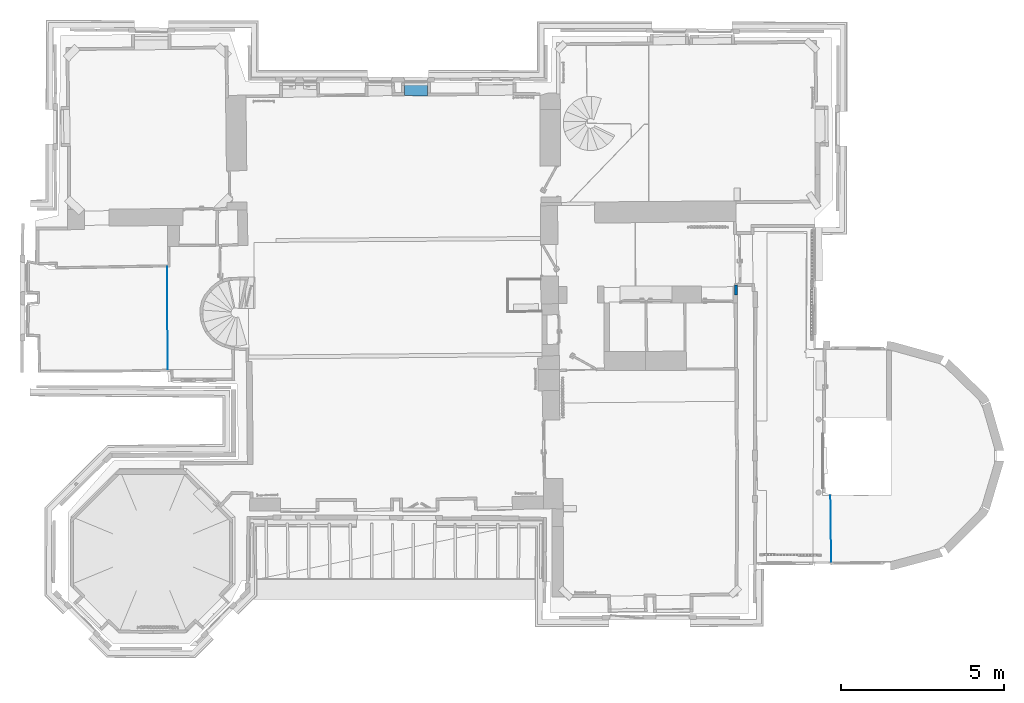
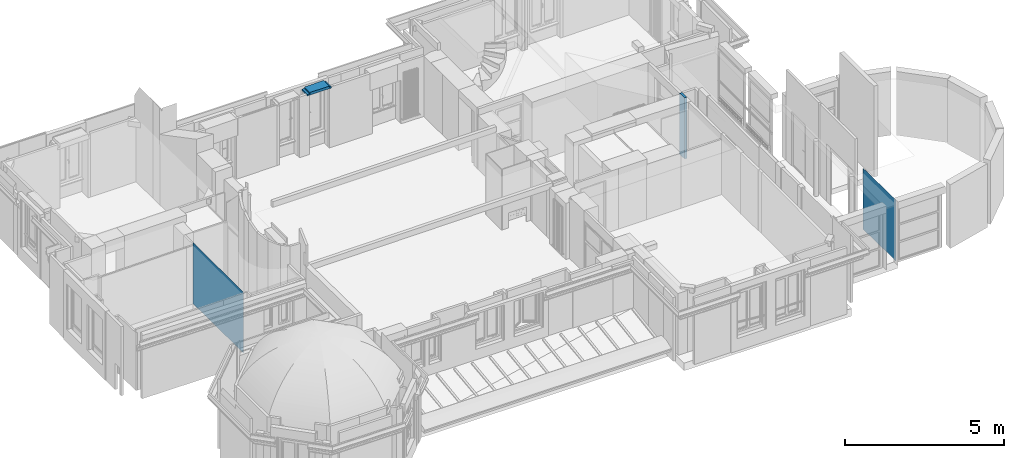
# One storey, part 25 of 72: 4 walls.
"""IFC2X3 building model written with IfcOpenShell, lengths in centimetres."""

import ifcopenshell
import ifcopenshell.guid

model = None  # the IFC model being written
_history = None  # IfcOwnerHistory: only IFC2X3 demands one
_inside = {}  # id of a spatial element -> (the spatial element, [elements in it])
_under = {}  # id of a project, library or spatial element -> (it, [spatial elements below it])
_declared = {}  # id of a project -> (the project, [libraries it declares])
_typed = {}  # id of a type object -> (the type object, [elements of that type])
_made_of = {}  # id of a material, layer set ... -> (it, [elements and type objects made of it])


def new_model(schema):
    """Start an empty IFC model of exactly this schema.

    Asked for "IFC4X3", IfcOpenShell would pick the latest addendum, in which some entities
    have other attributes; the version numbers below select the first issue.
    IFC2X3 requires an IfcOwnerHistory on every rooted entity: one is made here for all.
    """
    global model, _history
    if schema == "IFC4X3":
        model = ifcopenshell.file(schema_version=(4, 3, 0, 0))
    else:
        model = ifcopenshell.file(schema=schema)
    _inside.clear()
    _under.clear()
    _declared.clear()
    _typed.clear()
    _made_of.clear()
    _history = None
    if model.schema == "IFC2X3":
        org = make("IfcOrganization", Name="unknown")
        user = make(
            "IfcPersonAndOrganization",
            ThePerson=make("IfcPerson", FamilyName="unknown"),
            TheOrganization=org,
        )
        app = make(
            "IfcApplication",
            ApplicationDeveloper=org,
            Version="unknown",
            ApplicationFullName="unknown",
            ApplicationIdentifier="unknown",
        )
        _history = make(
            "IfcOwnerHistory",
            OwningUser=user,
            OwningApplication=app,
            ChangeAction="ADDED",
            CreationDate=0,
        )
    return model


def make(cls, **values):
    """One entity of the class cls with the attributes given. An attribute that is None is left unset."""
    return model.create_entity(
        cls, **{name: value for name, value in values.items() if value is not None}
    )


def entity(cls, *values):
    """Any entity or typed value of the class cls, its attributes in the order of the schema. None: left unset."""
    e = model.create_entity(cls)
    for i, value in enumerate(values):
        if value is not None:
            e[i] = value
    return e


def rooted(cls, **values):
    """An entity with a GlobalId (a new one), such as an element, a storey or a relation."""
    return make(cls, GlobalId=ifcopenshell.guid.new(), OwnerHistory=_history, **values)


def si_unit(unit_type, name, prefix=None):
    """IfcSIUnit, for example si_unit("LENGTHUNIT", "METRE", prefix="MILLI")."""
    return make("IfcSIUnit", UnitType=unit_type, Prefix=prefix, Name=name)


def converted_unit(unit_type, name, factor, base, dimensions=None, offset=None):
    """IfcConversionBasedUnit, such as the inch: factor (a typed value) times the base unit."""
    return make(
        "IfcConversionBasedUnit"
        if offset is None
        else "IfcConversionBasedUnitWithOffset",
        ConversionOffset=offset,
        Dimensions=None
        if dimensions is None
        else entity("IfcDimensionalExponents", *dimensions),
        UnitType=unit_type,
        Name=name,
        ConversionFactor=make(
            "IfcMeasureWithUnit", ValueComponent=factor, UnitComponent=base
        ),
    )


def assignment(units):
    """IfcUnitAssignment: the units of a project."""
    return None if units is None else make("IfcUnitAssignment", Units=units)


def point(xyz):
    """IfcCartesianPoint."""
    return None if xyz is None else make("IfcCartesianPoint", Coordinates=xyz)


def direction(xyz):
    """IfcDirection."""
    return None if xyz is None else make("IfcDirection", DirectionRatios=xyz)


def frame(location, z_axis=None, x_axis=None):
    """IfcAxis2Placement3D, a coordinate frame: its origin and axes. An axis left out is left unset."""
    return make(
        "IfcAxis2Placement3D",
        Location=point(location),
        Axis=direction(z_axis),
        RefDirection=direction(x_axis),
    )


def origin():
    """The frame at (0, 0, 0) with its axes left unset."""
    return frame((0.0, 0.0, 0.0))


def origin_with_axes():
    """The frame at (0, 0, 0) with the z axis (0, 0, 1) and the x axis (1, 0, 0) written out."""
    return frame((0.0, 0.0, 0.0), z_axis=(0.0, 0.0, 1.0), x_axis=(1.0, 0.0, 0.0))


def place(relative_to, where):
    """IfcLocalPlacement: puts the frame where relative to a parent placement (None: the world)."""
    return make(
        "IfcLocalPlacement", PlacementRelTo=relative_to, RelativePlacement=where
    )


def context(
    kind, dimensions, precision=None, world=None, true_north=None, identifier=None
):
    """IfcGeometricRepresentationContext, for example the 3D "Model" context."""
    return make(
        "IfcGeometricRepresentationContext",
        ContextIdentifier=identifier,
        ContextType=kind,
        CoordinateSpaceDimension=dimensions,
        Precision=precision,
        WorldCoordinateSystem=world,
        TrueNorth=true_north,
    )


def subcontext(parent, identifier, kind, view, scale=None):
    """IfcGeometricRepresentationSubContext, for example "Body" below "Model"."""
    return make(
        "IfcGeometricRepresentationSubContext",
        ContextIdentifier=identifier,
        ContextType=kind,
        ParentContext=parent,
        TargetScale=scale,
        TargetView=view,
    )


def project(units=None, contexts=None):
    """IfcProject with its units and contexts."""
    return rooted(
        "IfcProject",
        Name="project",
        RepresentationContexts=contexts,
        UnitsInContext=assignment(units),
    )


def spatial(cls, under=None, at=None, **own):
    """A site, building, storey or space (cls), placed at a placement, below another one or the project."""
    s = rooted(cls, ObjectPlacement=at, **own)
    if under is not None:
        _under.setdefault(under.id(), (under, []))[1].append(s)
    return s


def polyline(points):
    """IfcPolyline through the points."""
    return make("IfcPolyline", Points=[point(p) for p in points])


def outline(outer, holes=None, kind="AREA"):
    """IfcArbitraryClosedProfileDef: a profile drawn as a closed curve; with holes, ...WithVoids."""
    if holes is None:
        return make("IfcArbitraryClosedProfileDef", ProfileType=kind, OuterCurve=outer)
    return make(
        "IfcArbitraryProfileDefWithVoids",
        ProfileType=kind,
        OuterCurve=outer,
        InnerCurves=holes,
    )


def extrude(swept, where, along, depth):
    """IfcExtrudedAreaSolid: the profile swept, set in the frame where, extruded along a direction by depth."""
    return make(
        "IfcExtrudedAreaSolid",
        SweptArea=swept,
        Position=where,
        ExtrudedDirection=direction(along),
        Depth=depth,
    )


def clip(a, b, op="DIFFERENCE"):
    """IfcBooleanClippingResult: the solid a cut by the half space b."""
    return make(
        "IfcBooleanClippingResult", Operator=op, FirstOperand=a, SecondOperand=b
    )


def bounded_halfspace(plane, agree, where, boundary):
    """IfcPolygonalBoundedHalfSpace: a half space limited to a polygon's prism."""
    return make(
        "IfcPolygonalBoundedHalfSpace",
        BaseSurface=make("IfcPlane", Position=plane),
        AgreementFlag=agree,
        Position=where,
        PolygonalBoundary=boundary,
    )


def faces_of(points, faces, orient=None, outer=None):
    """IfcFace entities. A face is a list of loops; a loop is a list of indices into points, from 0.

    orient and outer hold one flag for each loop. By default every Orientation is true, the
    first loop of a face is its IfcFaceOuterBound and the others are IfcFaceBound.
    """
    made = []
    for i, loops in enumerate(faces):
        bounds = []
        for j, loop in enumerate(loops):
            is_outer = j == 0 if outer is None else outer[i][j]
            bounds.append(
                make(
                    "IfcFaceOuterBound" if is_outer else "IfcFaceBound",
                    Bound=make("IfcPolyLoop", Polygon=[points[k] for k in loop]),
                    Orientation=True if orient is None else orient[i][j],
                )
            )
        made.append(make("IfcFace", Bounds=bounds))
    return made


def faceted_brep(points, faces, orient=None, outer=None, voids=None):
    """IfcFacetedBrep: a solid bounded by flat faces; with voids (closed shells), ...WithVoids."""
    shared = [point(p) for p in points]
    hull = make("IfcClosedShell", CfsFaces=faces_of(shared, faces, orient, outer))
    if voids is None:
        return make("IfcFacetedBrep", Outer=hull)
    return make(
        "IfcFacetedBrepWithVoids",
        Outer=hull,
        Voids=[
            make(cls, CfsFaces=faces_of(shared, fs, o, b)) for cls, fs, o, b in voids
        ],
    )


def shape(context_of_items, identifier, shape_type, items):
    """IfcShapeRepresentation: the items that make up one representation, for example the "Body"."""
    return make(
        "IfcShapeRepresentation",
        ContextOfItems=context_of_items,
        RepresentationIdentifier=identifier,
        RepresentationType=shape_type,
        Items=items,
    )


def material(Name=None, Category=None):
    """IfcMaterial."""
    return make("IfcMaterial", Name=Name, Category=Category)


def layer(
    of_material, thickness, ventilated=None, Name=None, Category=None, Priority=None
):
    """IfcMaterialLayer: one layer of a wall or slab, of a material (None: an air gap)."""
    return make(
        "IfcMaterialLayer",
        Material=of_material,
        LayerThickness=thickness,
        IsVentilated=ventilated,
        Name=Name,
        Category=Category,
        Priority=Priority,
    )


def layer_set(layers, Name=None):
    """IfcMaterialLayerSet."""
    return make("IfcMaterialLayerSet", MaterialLayers=layers, LayerSetName=Name)


def layer_usage(for_layer_set, set_direction, sense, offset, extent=None):
    """IfcMaterialLayerSetUsage: how a layer set lies in its element."""
    return make(
        "IfcMaterialLayerSetUsage",
        ForLayerSet=for_layer_set,
        LayerSetDirection=set_direction,
        DirectionSense=sense,
        OffsetFromReferenceLine=offset,
        ReferenceExtent=extent,
    )


def made_of(thing, what):
    """Note that an element or type object is made of a material, layer set ...; save() writes the relation."""
    if what is not None:
        _made_of.setdefault(what.id(), (what, []))[1].append(thing)
    return thing


def type_object(cls, material=None, **own):
    """A type object (cls), such as IfcWallType, which elements share."""
    return made_of(rooted(cls, **own), material)


def element(
    cls,
    number,
    at=None,
    inside=None,
    cuts=None,
    type_object=None,
    material=None,
    context=None,
    identifier="Body",
    shape_type=None,
    held_by="IfcProductDefinitionShape",
    body=None,
    shapes=None,
    **own,
):
    """One element of the class cls, such as IfcWall. Its Tag is "e" and its number.

    at: its placement. inside: the storey or other place that contains it. cuts: it is an
    opening in that element (IfcRelVoidsElement). A single representation is given by context,
    identifier, shape_type and body (its items); several are given by shapes. held_by: the class
    of the entity that holds the representations. save() writes the other relations.
    """
    e = rooted(cls, Tag="e%d" % number, ObjectPlacement=at, **own)
    if body is not None:
        shapes = [shape(context, identifier, shape_type, body)]
    if shapes is not None:
        e.Representation = make(held_by, Representations=shapes)
    if inside is not None:
        _inside.setdefault(inside.id(), (inside, []))[1].append(e)
    if cuts is not None:
        rooted(
            "IfcRelVoidsElement", RelatingBuildingElement=cuts, RelatedOpeningElement=e
        )
    if type_object is not None:
        _typed.setdefault(type_object.id(), (type_object, []))[1].append(e)
    return made_of(e, material)


def aggregate(whole, parts):
    """IfcRelAggregates: a whole, such as a stair, and the parts it consists of."""
    return rooted("IfcRelAggregates", RelatingObject=whole, RelatedObjects=parts)


def save(model, path):
    """Write the relations noted so far, then the file.

    IfcRelAggregates (storeys below a building ...), IfcRelContainedInSpatialStructure (elements
    in a storey), IfcRelDefinesByType, IfcRelAssociatesMaterial and IfcRelDeclares: one each for
    every whole, place, type object, material and project.
    """
    for whole, parts in _under.values():
        aggregate(whole, parts)
    for where, things in _inside.values():
        rooted(
            "IfcRelContainedInSpatialStructure",
            RelatedElements=things,
            RelatingStructure=where,
        )
    for kind, things in _typed.values():
        rooted("IfcRelDefinesByType", RelatedObjects=things, RelatingType=kind)
    for what, things in _made_of.values():
        rooted("IfcRelAssociatesMaterial", RelatedObjects=things, RelatingMaterial=what)
    for by, libraries in _declared.values():
        rooted("IfcRelDeclares", RelatingContext=by, RelatedDefinitions=libraries)
    model.write(path)


model = new_model("IFC2X3")

# Units and contexts
model_context = context("Model", 3, precision=0.0001, world=origin(), true_north=direction((0.225632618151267, 0.974212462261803, 0.0)))
body_context = subcontext(model_context, "Body", "Model", "MODEL_VIEW")
ifc_project = project(units=[si_unit("LENGTHUNIT", "METRE", prefix="CENTI"), si_unit("AREAUNIT", "SQUARE_METRE", prefix="CENTI"), si_unit("VOLUMEUNIT", "CUBIC_METRE", prefix="CENTI"), converted_unit("PLANEANGLEUNIT", "DEGREE", entity("IfcRatioMeasure", 0.0174532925), si_unit("PLANEANGLEUNIT", "RADIAN"), dimensions=[0, 0, 0, 0, 0, 0, 0])], contexts=[model_context])

# Site, building, storey
site_placement = place(None, origin_with_axes())
site = spatial("IfcSite", under=ifc_project, at=site_placement, Name="Default Site", CompositionType="ELEMENT")
building_placement = place(site_placement, origin_with_axes())
building = spatial("IfcBuilding", under=site, at=building_placement, Name="Default Building", CompositionType="ELEMENT")
storey_placement = place(building_placement, frame((0.0, 0.0, 853.910374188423), z_axis=(0.0, 0.0, 1.0), x_axis=(1.0, 0.0, 0.0)))
storey = spatial("IfcBuildingStorey", under=building, at=storey_placement, Name="Niveau 2", CompositionType="ELEMENT", Elevation=853.910374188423)

# Walls
ifc_material = material(Name="<aucun>")
ifc_layer_1 = layer(ifc_material, 9.0)
ifc_layer_set_1 = layer_set([ifc_layer_1], Name="default")
ifc_layer_usage_1 = layer_usage(ifc_layer_set_1, "AXIS2", "POSITIVE", -4.5)
wall_type_1 = type_object("IfcWallType", Name="default 90", PredefinedType="NOTDEFINED", material=ifc_layer_set_1)
wall_1_placement = place(storey_placement, frame((832.295948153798, -54.7670521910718, 1.4210854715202e-12), z_axis=(0.0, 0.0, 1.0), x_axis=(-0.0164847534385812, 0.99986411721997, 0.0)))
element("IfcWall", 1, at=wall_1_placement, inside=storey, type_object=wall_type_1, material=ifc_layer_usage_1, Name="Enveloppe 734086", context=body_context, shape_type="Brep", body=[
    faceted_brep([(1.36499394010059e-06, 4.50000503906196, 235.000014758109), (30.0980999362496, 4.50000506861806, 235.000014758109), (30.0980999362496, 4.50000506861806, -2.33888636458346e-05), (1.36499394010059e-06, 4.50000503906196, -2.33888636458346e-05), (5.31401200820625e-07, -4.49999337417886, -2.33888636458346e-05), (30.0980991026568, -4.49999334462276, -2.33888636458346e-05), (30.0980991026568, -4.49999334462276, 235.000014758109), (5.31401200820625e-07, -4.49999337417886, 235.000014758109), (1.37383186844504e-06, -4.49999337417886, -2.33888636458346e-05), (1.37383186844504e-06, -4.49999337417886, 235.000014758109), (30.0980999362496, 4.50004205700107, 235.000014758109), (30.0980999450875, -4.49995635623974, 235.000014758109), (30.0980999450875, -4.49995635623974, -2.33888636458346e-05), (30.0980999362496, 4.50004205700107, -2.33888636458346e-05), (30.0980991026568, -4.49995635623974, 235.000014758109), (30.0980991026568, -4.49995635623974, -2.33888636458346e-05)], [[[0, 1, 2, 3]], [[4, 5, 6, 7]], [[3, 8, 9, 0]], [[10, 11, 12, 13]], [[7, 14, 10, 0]], [[3, 13, 15, 4]]]),
])
ifc_layer_2 = layer(ifc_material, 0.0101999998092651)
ifc_layer_set_2 = layer_set([ifc_layer_2], Name="default")
ifc_layer_usage_2 = layer_usage(ifc_layer_set_2, "AXIS2", "POSITIVE", -0.0051)
wall_type_2 = type_object("IfcWallType", Name="default 0.101999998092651", PredefinedType="NOTDEFINED", material=ifc_layer_set_2)
wall_2_placement = place(storey_placement, frame((1124.24061530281, -872.651457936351, 0.0), z_axis=(0.0, 0.0, 1.0), x_axis=(-0.0125469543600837, 0.999921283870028, 0.0)))
element("IfcWall", 2, at=wall_2_placement, inside=storey, type_object=wall_type_2, material=ifc_layer_usage_2, Name="Enveloppe fantôme 777347", context=body_context, shape_type="Brep", body=[
    faceted_brep([(203.103103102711, 1.39379110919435e-05, -2.33888624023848e-05), (0.0867673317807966, 1.38186416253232e-05, -2.33888624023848e-05), (0.0867673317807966, 1.38186416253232e-05, 235.00001475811), (203.103103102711, 1.39379110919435e-05, 235.00001475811), (0.0867673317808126, -1.34640975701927e-05, -2.33888624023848e-05), (203.103103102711, -1.33448281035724e-05, -2.33888624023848e-05), (203.103103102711, -1.33448281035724e-05, 235.00001475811), (0.0867673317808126, -1.34640975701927e-05, 235.00001475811)], [[[0, 1, 2, 3]], [[4, 5, 6, 7]]]),
])
ifc_layer_usage_3 = layer_usage(ifc_layer_set_2, "AXIS2", "POSITIVE", -0.0051)
wall_3_placement = place(storey_placement, frame((-908.131122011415, -283.24056695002, 0.0), z_axis=(0.0, 0.0, 1.0), x_axis=(-0.00515423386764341, 0.999986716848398, 0.0)))
element("IfcWall", 3, at=wall_3_placement, inside=storey, type_object=wall_type_2, material=ifc_layer_usage_3, Name="Enveloppe fantôme 176877", context=body_context, shape_type="Brep", body=[
    faceted_brep([(313.768082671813, 7.40526360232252e-06, -2.33888624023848e-05), (-0.00988449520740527, 7.38372791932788e-06, -2.33888624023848e-05), (-0.00988449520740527, 7.38372791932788e-06, 228.000045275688), (313.768082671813, 7.40526360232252e-06, 228.000045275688), (313.768082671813, 7.40526360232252e-06, 224.999976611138), (-0.00988449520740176, -4.38433179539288e-05, -2.33888624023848e-05), (313.768082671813, -4.38217822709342e-05, -2.33888624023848e-05), (313.768082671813, -4.38217822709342e-05, 224.999976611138), (313.768082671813, -4.38217822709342e-05, 228.000045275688), (-0.00988449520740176, -4.38433179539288e-05, 228.000045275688), (314.278185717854, -4.68651988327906e-05, 224.999976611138), (313.768082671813, -4.68652338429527e-05, 224.999976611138), (313.768082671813, -4.68652338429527e-05, 228.000045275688), (314.278185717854, -4.68651988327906e-05, 228.000045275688), (314.278185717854, 7.40529861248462e-06, 224.999976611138), (314.278185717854, 7.40529861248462e-06, 228.000045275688), (-0.00988449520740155, -4.68867695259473e-05, 228.000045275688), (-0.00988449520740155, -4.68867695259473e-05, 235.00001475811), (314.278185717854, -4.68651988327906e-05, 235.00001475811), (314.278185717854, -4.38217472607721e-05, 228.000045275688), (314.278185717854, -4.38217472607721e-05, 235.00001475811), (-0.00988449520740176, -4.38433179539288e-05, 235.00001475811)], [[[0, 1, 2, 3, 4]], [[5, 6, 7, 8, 9]], [[10, 11, 12, 13]], [[4, 14, 15, 3]], [[13, 12, 16, 17, 18]], [[9, 8, 19, 20, 21]]]),
])
ifc_layer_3 = layer(ifc_material, 35.0)
ifc_layer_set_3 = layer_set([ifc_layer_3], Name="default")
ifc_layer_usage_4 = layer_usage(ifc_layer_set_3, "AXIS2", "POSITIVE", -17.5)
wall_type_3 = type_object("IfcWallType", Name="default 350", PredefinedType="NOTDEFINED", material=ifc_layer_set_3)
wall_4_placement = place(storey_placement, frame((-112.456725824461, 572.00909391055, 230.000000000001), z_axis=(0.0, 0.0, 1.0), x_axis=(-0.999981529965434, 0.00607780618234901, 0.0)))
element("IfcWallStandardCase", 4, at=wall_4_placement, inside=storey, type_object=wall_type_3, material=ifc_layer_usage_4, Name="Enveloppe 166404", context=body_context, shape_type="Clipping", body=[
    clip(clip(extrude(outline(polyline([(79.8787996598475, 8.43888257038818), (79.7907089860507, 17.4384514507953), (75.1733319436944, 17.3932550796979), (75.1726831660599, 17.4999984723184), (-4.50480440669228, 17.5000000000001), (-4.50455375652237, 17.4587605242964), (-8.66866740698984, 17.4206377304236), (-8.58627521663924, 8.42101487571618), (-8.48627940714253, 8.42193034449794), (-8.44483745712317, -18.978235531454), (79.6859162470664, -17.3117517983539), (79.6894668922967, 8.43773182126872), (79.8787996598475, 8.43888257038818)])), frame((0.0, 0.0, 1.77635683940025e-13), z_axis=(0.0, 0.0, 1.0), x_axis=(1.0, 0.0, 0.0)), (0.0, 0.0, 1.0), 9.99999999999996), bounded_halfspace(frame((-4.5045421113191, 17.458760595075, 4.99999999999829), z_axis=(0.0, 0.0, -1.0), x_axis=(-0.999958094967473, -0.00915468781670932, 0.0)), True, frame((-4.5045421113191, 17.458760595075, 4.99999999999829), z_axis=(0.0, 0.0, 1.0), x_axis=(1.0, 0.0, 0.0)), polyline([(-4.16412529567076, -0.0381228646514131), (-4.08173310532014, -9.0377457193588), (-3.98173729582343, -9.03683025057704), (-3.94029534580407, -36.436996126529), (4.50454211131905, -36.4369961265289), (4.5045421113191, 0.0412394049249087), (-0.000262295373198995, 0.0412394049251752), (-2.22044604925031e-14, 0.0), (-4.16412529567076, -0.0381228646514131)]))), bounded_halfspace(frame((79.6894711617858, 8.43702936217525, 4.99999999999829), z_axis=(0.0, 0.0, -1.0), x_axis=(0.999952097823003, 0.0097878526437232, 0.0)), True, frame((79.6894711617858, 8.43702936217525, 4.99999999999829), z_axis=(0.0, 0.0, 1.0), x_axis=(1.0, 0.0, 0.0)), polyline([(-8.99874883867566, -25.9370293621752), (-0.00355491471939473, -25.7487811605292), (-2.22044604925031e-14, 8.88178419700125e-14), (0.189328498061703, 0.00185320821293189), (0.101237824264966, 9.00142208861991), (-4.51613921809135, 8.95622571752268), (-4.51653664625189, 9.06297063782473), (-8.99874883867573, 9.06297063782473), (-8.99874883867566, -25.9370293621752)]))),
])

save(model, "model.ifc")
